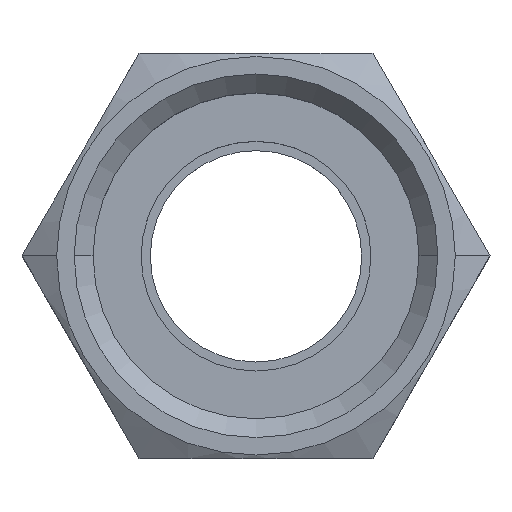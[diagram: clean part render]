
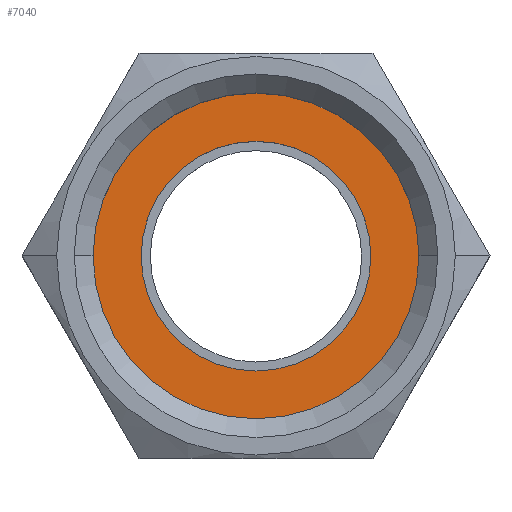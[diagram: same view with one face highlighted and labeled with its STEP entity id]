
A CAD part, top view. The second image highlights one B-rep face of the part: STEP entity #7040.
In plain terms, the highlighted planar face has unit normal (0, 0, 1) as drawn and (0, -1, 0) by its records, which use the part's own axes.
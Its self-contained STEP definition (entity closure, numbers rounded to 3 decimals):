
#6550=CARTESIAN_POINT('',(1.925,-2.5,0.));
#6560=VERTEX_POINT('',#6550);
#6650=CARTESIAN_POINT('',(18.925,-2.5,0.));
#6660=VERTEX_POINT('',#6650);
#6690=CARTESIAN_POINT('',(10.425,-2.5,0.));
#6700=DIRECTION('',(0.,1.,0.));
#6710=DIRECTION('',(1.,0.,0.));
#6720=AXIS2_PLACEMENT_3D('',#6690,#6700,#6710);
#6730=CIRCLE('',#6720,8.5);
#6740=EDGE_CURVE('',#6660,#6560,#6730,.T.);
#6790=CARTESIAN_POINT('',(-0.55,-2.5,0.));
#6800=DIRECTION('',(0.,-1.,0.));
#6810=DIRECTION('',(1.,0.,0.));
#6820=AXIS2_PLACEMENT_3D('',#6790,#6800,#6810);
#6830=PLANE('',#6820);
#6840=EDGE_CURVE('',#6560,#6660,#6730,.T.);
#6850=ORIENTED_EDGE('',*,*,#6840,.T.);
#6860=ORIENTED_EDGE('',*,*,#6740,.T.);
#6870=EDGE_LOOP('',(#6860,#6850));
#6880=FACE_BOUND('',#6870,.T.);
#6890=CARTESIAN_POINT('',(10.425,-2.5,0.));
#6900=DIRECTION('',(0.,-1.,0.));
#6910=DIRECTION('',(-1.,0.,0.));
#6920=AXIS2_PLACEMENT_3D('',#6890,#6900,#6910);
#6930=CIRCLE('',#6920,13.45);
#6940=CARTESIAN_POINT('',(-3.025,-2.5,0.)
);
#6950=VERTEX_POINT('',#6940);
#6960=CARTESIAN_POINT('',(23.875,-2.5,0.));
#6970=VERTEX_POINT('',#6960);
#6980=EDGE_CURVE('',#6950,#6970,#6930,.T.);
#6990=ORIENTED_EDGE('',*,*,#6980,.T.);
#7000=EDGE_CURVE('',#6970,#6950,#6930,.T.);
#7010=ORIENTED_EDGE('',*,*,#7000,.T.);
#7020=EDGE_LOOP('',(#7010,#6990));
#7030=FACE_OUTER_BOUND('',#7020,.T.);
#7040=ADVANCED_FACE('',(#6880,#7030),#6830,.T.);
